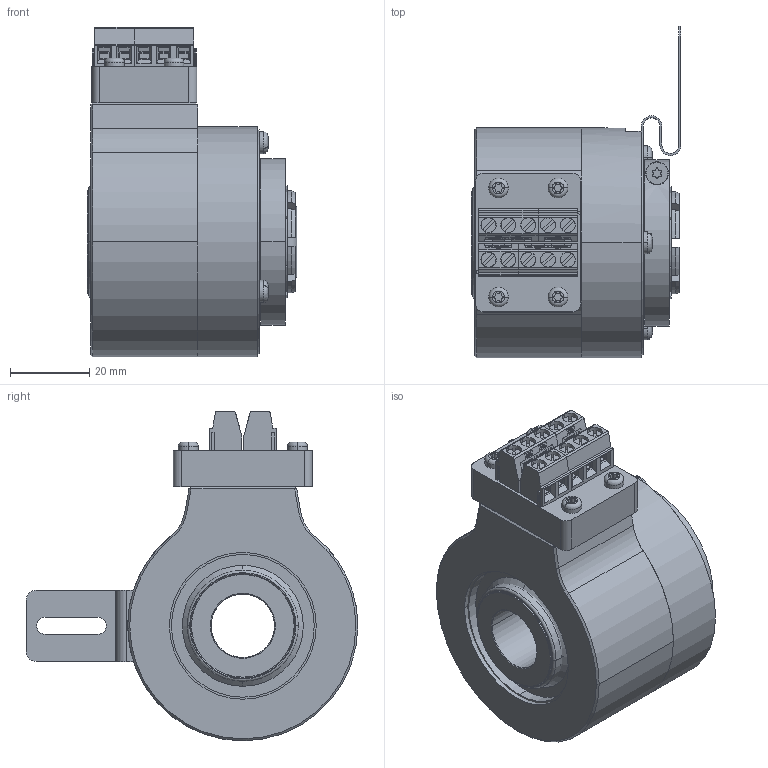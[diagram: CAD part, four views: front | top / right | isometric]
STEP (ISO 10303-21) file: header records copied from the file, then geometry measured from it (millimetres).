
FILE_DESCRIPTION (( 'STEP AP203' ), '1' );
FILE_NAME ('K58I.OXX.XXXXX.XH25516.XXRCF.step', '2025-12-03T09:28:34', ( '' ), ( '' ), 'SwSTEP 2.0', 'SolidWorks 2021', '' );
FILE_SCHEMA (( 'CONFIG_CONTROL_DESIGN' ));
Products named in the file (1): K58I.OXX.XXXXX.XH25516.XXRCF
Bounding box: 52.85 x 83.61 x 83.12 mm (x, y, z)
Volume: 128081.2 mm3; surface area: 58789.1 mm2
Topology: 42 solids, 42 shells, 3279 faces, 9056 edges, 5949 vertices
Faces by surface type: plane 2520, cylinder 613, cone 80, bspline 36, torus 30
Entity records: 106285 total; most frequent: CARTESIAN_POINT 21810, ORIENTED_EDGE 18088, DIRECTION 16654, EDGE_CURVE 9044, LINE 7380, VECTOR 7380, VERTEX_POINT 5949, AXIS2_PLACEMENT_3D 4637
